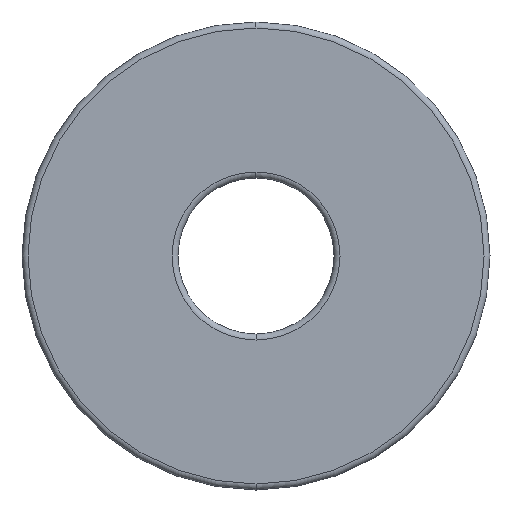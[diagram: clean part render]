
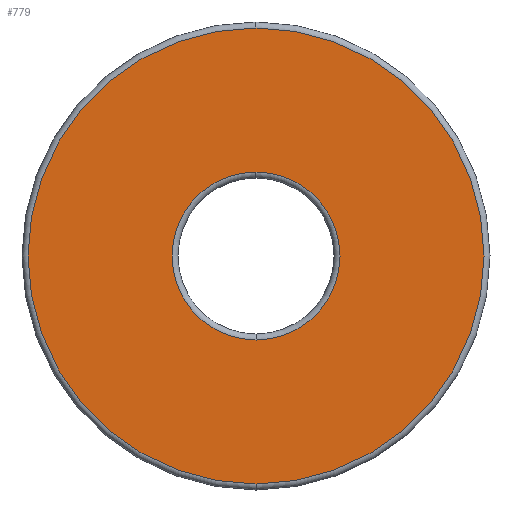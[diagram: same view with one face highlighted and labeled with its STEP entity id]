
A CAD part, front view. The second image highlights one B-rep face of the part: STEP entity #779.
In plain terms, the highlighted planar face has unit normal (0, -1, 0).
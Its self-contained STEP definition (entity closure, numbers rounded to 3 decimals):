
#160=CARTESIAN_POINT('Vertex',(0.,-7.,19.)) ;
#163=CARTESIAN_POINT('Axis2P3D Location',(0.,-7.,0.)) ;
#167=CARTESIAN_POINT('Vertex',(0.,-7.,-19.)) ;
#182=CARTESIAN_POINT('Axis2P3D Location',(0.,-7.,0.)) ;
#199=CARTESIAN_POINT('Axis2P3D Location',(0.,-7.,0.)) ;
#203=CARTESIAN_POINT('Vertex',(0.,-7.,7.)) ;
#205=CARTESIAN_POINT('Vertex',(0.,-7.,-7.)) ;
#234=CARTESIAN_POINT('Axis2P3D Location',(0.,-7.,0.)) ;
#766=CARTESIAN_POINT('Axis2P3D Location',(0.,-7.,7.)) ;
#164=DIRECTION('Axis2P3D Direction',(0.,1.,0.)) ;
#183=DIRECTION('Axis2P3D Direction',(0.,1.,0.)) ;
#200=DIRECTION('Axis2P3D Direction',(0.,1.,0.)) ;
#235=DIRECTION('Axis2P3D Direction',(0.,1.,0.)) ;
#767=DIRECTION('Axis2P3D Direction',(-0.,1.,0.)) ;
#768=DIRECTION('Axis2P3D XDirection',(1.,0.,0.)) ;
#165=AXIS2_PLACEMENT_3D('Circle Axis2P3D',#163,#164,$) ;
#184=AXIS2_PLACEMENT_3D('Circle Axis2P3D',#182,#183,$) ;
#201=AXIS2_PLACEMENT_3D('Circle Axis2P3D',#199,#200,$) ;
#236=AXIS2_PLACEMENT_3D('Circle Axis2P3D',#234,#235,$) ;
#769=AXIS2_PLACEMENT_3D('Plane Axis2P3D',#766,#767,#768) ;
#772=ORIENTED_EDGE('',*,*,#169,.F.) ;
#773=ORIENTED_EDGE('',*,*,#186,.F.) ;
#776=ORIENTED_EDGE('',*,*,#238,.T.) ;
#777=ORIENTED_EDGE('',*,*,#207,.T.) ;
#778=FACE_BOUND('',#775,.T.) ;
#779=ADVANCED_FACE('Corps principal',(#774,#778),#770,.F.) ;
#166=CIRCLE('generated circle',#165,19.) ;
#185=CIRCLE('generated circle',#184,19.) ;
#202=CIRCLE('generated circle',#201,7.) ;
#237=CIRCLE('generated circle',#236,7.) ;
#169=EDGE_CURVE('',#161,#168,#166,.T.) ;
#186=EDGE_CURVE('',#168,#161,#185,.T.) ;
#207=EDGE_CURVE('',#204,#206,#202,.T.) ;
#238=EDGE_CURVE('',#206,#204,#237,.T.) ;
#771=EDGE_LOOP('',(#772,#773)) ;
#775=EDGE_LOOP('',(#776,#777)) ;
#774=FACE_OUTER_BOUND('',#771,.T.) ;
#770=PLANE('',#769) ;
#161=VERTEX_POINT('',#160) ;
#168=VERTEX_POINT('',#167) ;
#204=VERTEX_POINT('',#203) ;
#206=VERTEX_POINT('',#205) ;
